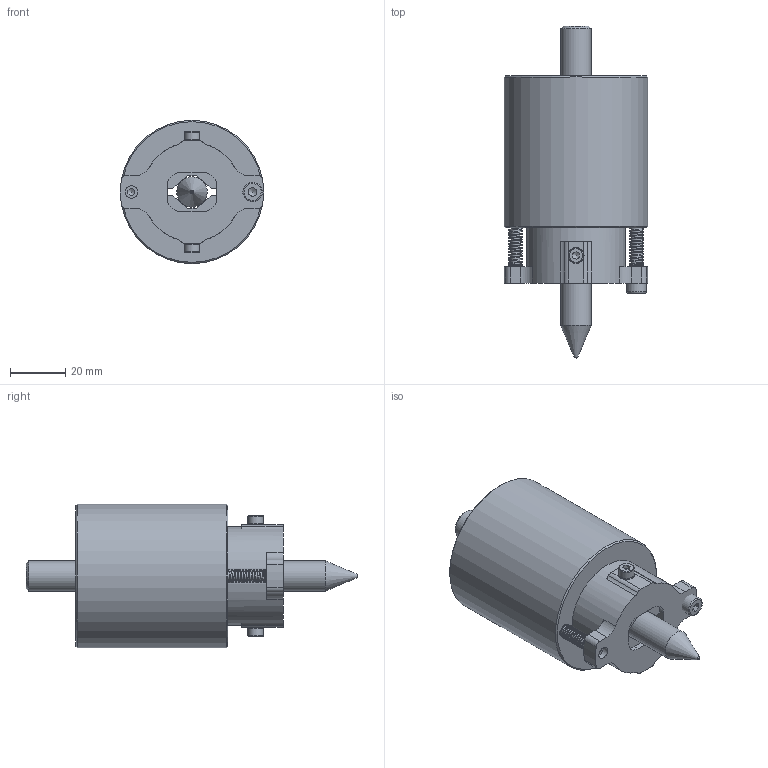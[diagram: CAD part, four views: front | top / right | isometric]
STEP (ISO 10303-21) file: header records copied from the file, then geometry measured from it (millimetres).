
FILE_DESCRIPTION(/* description */ (''),/* implementation_level */ '2;1');
FILE_NAME(/* name */ 'Assieme_pp2.stp',/* time_stamp */ '2024-11-29T19:53:56+01:00',/* author */ ('R5800u'),/* organization */ (''),/* preprocessor_version */ 'ST-DEVELOPER v20',/* originating_system */ 'Autodesk Inventor 2025',/* authorisation */ '');
FILE_SCHEMA (('AUTOMOTIVE_DESIGN { 1 0 10303 214 3 1 1 }'));
Length unit declared in the file: millimetre
Products named in the file (10): Assieme_pp1; pp1; pp3; BS 4168 - M4 x 35; BS 4168 - M3 x 30; Molla di compressione1; pp5; boccola_filettata; AS 1420 - 1973 - M3 x 10; pennarello
Assembly tree (13 placements, depth 2):
  Assieme_pp1
    pp1
    pp3
    BS 4168 - M4 x 35
    BS 4168 - M3 x 30
    Molla di compressione1  x2
    pp5  x2
    boccola_filettata  x2
    AS 1420 - 1973 - M3 x 10  x2
    pennarello
Bounding box: 51.8 x 120 x 51.8 mm (x, y, z)
Volume: 115808.4 mm3; surface area: 41716.7 mm2
Topology: 13 solids, 13 shells, 812 faces, 2343 edges, 1561 vertices
Faces by surface type: plane 502, cylinder 256, bspline 25, cone 21, torus 8
Full cylindrical faces by diameter (mm): 2.642 x2, 3 x3, 3.4 x2, 3.5 x2, 4 x1, 4.5 x2, 5 x2, 5.5 x3, 7 x1, 11 x1, 35.7 x1, 35.8 x1, 51.8 x1
Entity records: 18453 total; most frequent: CARTESIAN_POINT 5859, ORIENTED_EDGE 2596, DIRECTION 2543, EDGE_CURVE 1298, LINE 881, VECTOR 881, VERTEX_POINT 868, AXIS2_PLACEMENT_3D 831
